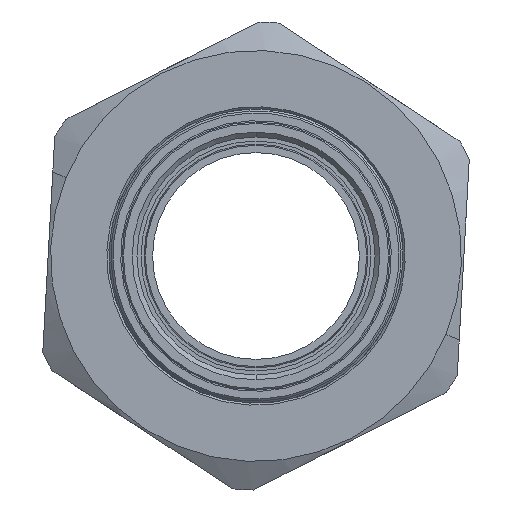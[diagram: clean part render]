
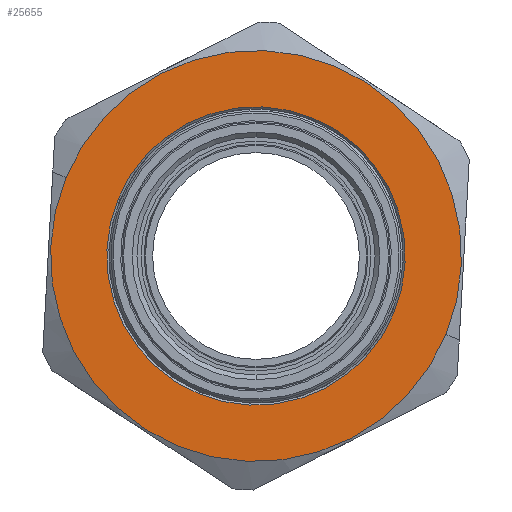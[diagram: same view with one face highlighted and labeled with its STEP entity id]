
A CAD part, left-side view. The second image highlights one B-rep face of the part: STEP entity #25655.
In plain terms, the highlighted planar face has unit normal (-1, 0, 0).
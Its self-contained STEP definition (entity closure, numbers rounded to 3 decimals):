
#20159 = VERTEX_POINT('',#20160);
#20160 = CARTESIAN_POINT('',(-44.324,20.333,
    8.401));
#20167 = CONICAL_SURFACE('',#20168,22.,0.785);
#20168 = AXIS2_PLACEMENT_3D('',#20169,#20170,#20171);
#20169 = CARTESIAN_POINT('',(-44.324,0.,0.));
#20170 = DIRECTION('',(-1.,0.,0.));
#20171 = DIRECTION('',(0.,0.924,0.382));
#20179 = CONICAL_SURFACE('',#20180,22.,0.785);
#20180 = AXIS2_PLACEMENT_3D('',#20181,#20182,#20183);
#20181 = CARTESIAN_POINT('',(-44.324,0.,0.));
#20182 = DIRECTION('',(-1.,0.,0.));
#20183 = DIRECTION('',(0.,0.924,0.382));
#20191 = EDGE_CURVE('',#20159,#20192,#20194,.T.);
#20192 = VERTEX_POINT('',#20193);
#20193 = CARTESIAN_POINT('',(-44.324,-20.333,
    -8.401));
#20194 = SURFACE_CURVE('',#20195,(#20200,#20207),.PCURVE_S1.);
#20195 = CIRCLE('',#20196,22.);
#20196 = AXIS2_PLACEMENT_3D('',#20197,#20198,#20199);
#20197 = CARTESIAN_POINT('',(-44.324,0.,0.));
#20198 = DIRECTION('',(1.,0.,0.));
#20199 = DIRECTION('',(0.,-0.924,-0.382));
#20200 = PCURVE('',#20167,#20201);
#20201 = DEFINITIONAL_REPRESENTATION('',(#20202),#20206);
#20202 = LINE('',#20203,#20204);
#20203 = CARTESIAN_POINT('',(9.425,0.));
#20204 = VECTOR('',#20205,1.);
#20205 = DIRECTION('',(-1.,0.));
#20206 = ( GEOMETRIC_REPRESENTATION_CONTEXT(2) 
PARAMETRIC_REPRESENTATION_CONTEXT() REPRESENTATION_CONTEXT('2D SPACE',''
  ) );
#20207 = PCURVE('',#20208,#20213);
#20208 = PLANE('',#20209);
#20209 = AXIS2_PLACEMENT_3D('',#20210,#20211,#20212);
#20210 = CARTESIAN_POINT('',(-44.324,8.286,
    -20.056));
#20211 = DIRECTION('',(1.,0.,0.));
#20212 = DIRECTION('',(0.,-0.924,-0.382));
#20213 = DEFINITIONAL_REPRESENTATION('',(#20214),#20218);
#20214 = CIRCLE('',#20215,22.);
#20215 = AXIS2_PLACEMENT_2D('',#20216,#20217);
#20216 = CARTESIAN_POINT('',(0.,-21.7));
#20217 = DIRECTION('',(1.,0.));
#20218 = ( GEOMETRIC_REPRESENTATION_CONTEXT(2) 
PARAMETRIC_REPRESENTATION_CONTEXT() REPRESENTATION_CONTEXT('2D SPACE',''
  ) );
#20756 = EDGE_CURVE('',#20757,#20759,#20761,.T.);
#20757 = VERTEX_POINT('',#20758);
#20758 = CARTESIAN_POINT('',(-44.324,-28.004,
    -11.57));
#20759 = VERTEX_POINT('',#20760);
#20760 = CARTESIAN_POINT('',(-44.324,28.004,
    11.57));
#20761 = SURFACE_CURVE('',#20762,(#20767,#20779),.PCURVE_S1.);
#20762 = CIRCLE('',#20763,30.3);
#20763 = AXIS2_PLACEMENT_3D('',#20764,#20765,#20766);
#20764 = CARTESIAN_POINT('',(-44.324,0.,0.));
#20765 = DIRECTION('',(1.,0.,0.));
#20766 = DIRECTION('',(0.,-0.924,-0.382));
#20767 = PCURVE('',#20768,#20773);
#20768 = CONICAL_SURFACE('',#20769,40.,1.047);
#20769 = AXIS2_PLACEMENT_3D('',#20770,#20771,#20772);
#20770 = CARTESIAN_POINT('',(-38.723,0.,0.));
#20771 = DIRECTION('',(1.,0.,0.));
#20772 = DIRECTION('',(0.,-0.924,-0.382));
#20773 = DEFINITIONAL_REPRESENTATION('',(#20774),#20778);
#20774 = LINE('',#20775,#20776);
#20775 = CARTESIAN_POINT('',(0.,-5.6));
#20776 = VECTOR('',#20777,1.);
#20777 = DIRECTION('',(1.,0.));
#20778 = ( GEOMETRIC_REPRESENTATION_CONTEXT(2) 
PARAMETRIC_REPRESENTATION_CONTEXT() REPRESENTATION_CONTEXT('2D SPACE',''
  ) );
#20779 = PCURVE('',#20208,#20780);
#20780 = DEFINITIONAL_REPRESENTATION('',(#20781),#20785);
#20781 = CIRCLE('',#20782,30.3);
#20782 = AXIS2_PLACEMENT_2D('',#20783,#20784);
#20783 = CARTESIAN_POINT('',(0.,-21.7));
#20784 = DIRECTION('',(1.,0.));
#20785 = ( GEOMETRIC_REPRESENTATION_CONTEXT(2) 
PARAMETRIC_REPRESENTATION_CONTEXT() REPRESENTATION_CONTEXT('2D SPACE',''
  ) );
#20803 = CONICAL_SURFACE('',#20804,40.,1.047);
#20804 = AXIS2_PLACEMENT_3D('',#20805,#20806,#20807);
#20805 = CARTESIAN_POINT('',(-38.723,0.,0.));
#20806 = DIRECTION('',(1.,0.,0.));
#20807 = DIRECTION('',(0.,-0.924,-0.382));
#25655 = ADVANCED_FACE('',(#25656,#25681),#20208,.F.);
#25656 = FACE_BOUND('',#25657,.T.);
#25657 = EDGE_LOOP('',(#25658,#25659));
#25658 = ORIENTED_EDGE('',*,*,#20191,.T.);
#25659 = ORIENTED_EDGE('',*,*,#25660,.T.);
#25660 = EDGE_CURVE('',#20192,#20159,#25661,.T.);
#25661 = SURFACE_CURVE('',#25662,(#25667,#25674),.PCURVE_S1.);
#25662 = CIRCLE('',#25663,22.);
#25663 = AXIS2_PLACEMENT_3D('',#25664,#25665,#25666);
#25664 = CARTESIAN_POINT('',(-44.324,0.,0.));
#25665 = DIRECTION('',(1.,0.,0.));
#25666 = DIRECTION('',(0.,-0.924,-0.382));
#25667 = PCURVE('',#20208,#25668);
#25668 = DEFINITIONAL_REPRESENTATION('',(#25669),#25673);
#25669 = CIRCLE('',#25670,22.);
#25670 = AXIS2_PLACEMENT_2D('',#25671,#25672);
#25671 = CARTESIAN_POINT('',(0.,-21.7));
#25672 = DIRECTION('',(1.,0.));
#25673 = ( GEOMETRIC_REPRESENTATION_CONTEXT(2) 
PARAMETRIC_REPRESENTATION_CONTEXT() REPRESENTATION_CONTEXT('2D SPACE',''
  ) );
#25674 = PCURVE('',#20179,#25675);
#25675 = DEFINITIONAL_REPRESENTATION('',(#25676),#25680);
#25676 = LINE('',#25677,#25678);
#25677 = CARTESIAN_POINT('',(3.142,0.));
#25678 = VECTOR('',#25679,1.);
#25679 = DIRECTION('',(-1.,0.));
#25680 = ( GEOMETRIC_REPRESENTATION_CONTEXT(2) 
PARAMETRIC_REPRESENTATION_CONTEXT() REPRESENTATION_CONTEXT('2D SPACE',''
  ) );
#25681 = FACE_BOUND('',#25682,.T.);
#25682 = EDGE_LOOP('',(#25683,#25684));
#25683 = ORIENTED_EDGE('',*,*,#20756,.F.);
#25684 = ORIENTED_EDGE('',*,*,#25685,.F.);
#25685 = EDGE_CURVE('',#20759,#20757,#25686,.T.);
#25686 = SURFACE_CURVE('',#25687,(#25692,#25699),.PCURVE_S1.);
#25687 = CIRCLE('',#25688,30.3);
#25688 = AXIS2_PLACEMENT_3D('',#25689,#25690,#25691);
#25689 = CARTESIAN_POINT('',(-44.324,0.,0.));
#25690 = DIRECTION('',(1.,0.,0.));
#25691 = DIRECTION('',(0.,-0.924,-0.382));
#25692 = PCURVE('',#20208,#25693);
#25693 = DEFINITIONAL_REPRESENTATION('',(#25694),#25698);
#25694 = CIRCLE('',#25695,30.3);
#25695 = AXIS2_PLACEMENT_2D('',#25696,#25697);
#25696 = CARTESIAN_POINT('',(0.,-21.7));
#25697 = DIRECTION('',(1.,0.));
#25698 = ( GEOMETRIC_REPRESENTATION_CONTEXT(2) 
PARAMETRIC_REPRESENTATION_CONTEXT() REPRESENTATION_CONTEXT('2D SPACE',''
  ) );
#25699 = PCURVE('',#20803,#25700);
#25700 = DEFINITIONAL_REPRESENTATION('',(#25701),#25705);
#25701 = LINE('',#25702,#25703);
#25702 = CARTESIAN_POINT('',(0.,-5.6));
#25703 = VECTOR('',#25704,1.);
#25704 = DIRECTION('',(1.,0.));
#25705 = ( GEOMETRIC_REPRESENTATION_CONTEXT(2) 
PARAMETRIC_REPRESENTATION_CONTEXT() REPRESENTATION_CONTEXT('2D SPACE',''
  ) );
